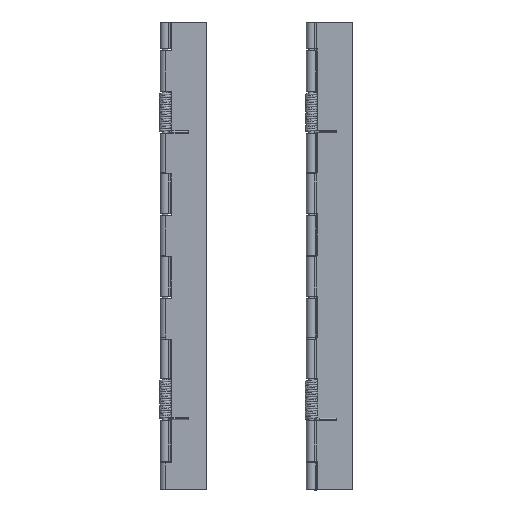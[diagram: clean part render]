
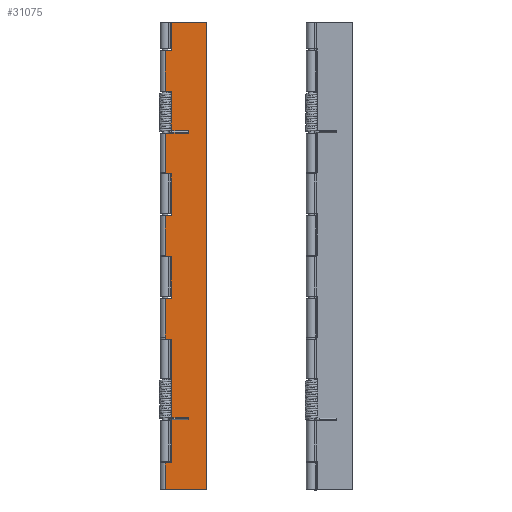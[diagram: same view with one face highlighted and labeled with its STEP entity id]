
A CAD part, top view. The second image highlights one B-rep face of the part: STEP entity #31075.
In plain terms, the highlighted free-form (B-spline) face has degree [1, 1] with [2, 2] control points.
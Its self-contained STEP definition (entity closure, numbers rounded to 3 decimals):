
#29385=CARTESIAN_POINT('',(2.2,52.5,-0.35));
#29386=VERTEX_POINT('',#29385);
#29394=CARTESIAN_POINT('',(2.2,67.3,-0.35));
#29395=VERTEX_POINT('',#29394);
#29396=CARTESIAN_POINT('',(2.2,52.5,-0.35));
#29397=DIRECTION('',(0.0,1.0,0.0));
#29398=VECTOR('',#29397,14.8);
#29399=LINE('',#29396,#29398);
#29400=EDGE_CURVE('',#29386,#29395,#29399,.T.);
#30141=CARTESIAN_POINT('',(2.2,82.5,-0.35));
#30142=VERTEX_POINT('',#30141);
#30150=CARTESIAN_POINT('',(2.2,97.3,-0.35));
#30151=VERTEX_POINT('',#30150);
#30152=CARTESIAN_POINT('',(2.2,82.5,-0.35));
#30153=DIRECTION('',(0.0,1.0,0.0));
#30154=VECTOR('',#30153,14.8);
#30155=LINE('',#30152,#30154);
#30156=EDGE_CURVE('',#30142,#30151,#30155,.T.);
#30267=CARTESIAN_POINT('',(2.2,112.5,-0.35));
#30268=VERTEX_POINT('',#30267);
#30276=CARTESIAN_POINT('',(2.2,127.3,-0.35));
#30277=VERTEX_POINT('',#30276);
#30278=CARTESIAN_POINT('',(2.2,112.5,-0.35));
#30279=DIRECTION('',(0.0,1.0,0.0));
#30280=VECTOR('',#30279,14.8);
#30281=LINE('',#30278,#30280);
#30282=EDGE_CURVE('',#30268,#30277,#30281,.T.);
#30393=CARTESIAN_POINT('',(2.2,-32.3,-0.35));
#30394=VERTEX_POINT('',#30393);
#30402=CARTESIAN_POINT('',(2.2,-22.5,-0.35));
#30403=VERTEX_POINT('',#30402);
#30404=CARTESIAN_POINT('',(2.2,-32.3,-0.35));
#30405=DIRECTION('',(0.0,1.0,0.0));
#30406=VECTOR('',#30405,9.8);
#30407=LINE('',#30404,#30406);
#30408=EDGE_CURVE('',#30394,#30403,#30407,.T.);
#30519=CARTESIAN_POINT('',(2.2,22.5,-0.35));
#30520=VERTEX_POINT('',#30519);
#30528=CARTESIAN_POINT('',(2.2,37.3,-0.35));
#30529=VERTEX_POINT('',#30528);
#30530=CARTESIAN_POINT('',(2.2,22.5,-0.35));
#30531=DIRECTION('',(0.0,1.0,0.0));
#30532=VECTOR('',#30531,14.8);
#30533=LINE('',#30530,#30532);
#30534=EDGE_CURVE('',#30520,#30529,#30533,.T.);
#30551=CARTESIAN_POINT('',(0.0,52.5,-0.35));
#30552=VERTEX_POINT('',#30551);
#30553=CARTESIAN_POINT('',(0.0,52.5,-0.35));
#30554=DIRECTION('',(1.0,0.0,0.0));
#30555=VECTOR('',#30554,2.2);
#30556=LINE('',#30553,#30555);
#30557=EDGE_CURVE('',#30552,#29386,#30556,.T.);
#30605=CARTESIAN_POINT('',(0.,82.5,-0.35));
#30606=VERTEX_POINT('',#30605);
#30607=CARTESIAN_POINT('',(0.,82.5,-0.35));
#30608=DIRECTION('',(1.0,0.0,0.0));
#30609=VECTOR('',#30608,2.2);
#30610=LINE('',#30607,#30609);
#30611=EDGE_CURVE('',#30606,#30142,#30610,.T.);
#30659=CARTESIAN_POINT('',(0.,112.5,-0.35));
#30660=VERTEX_POINT('',#30659);
#30661=CARTESIAN_POINT('',(0.,112.5,-0.35));
#30662=DIRECTION('',(1.0,0.,0.0));
#30663=VECTOR('',#30662,2.2);
#30664=LINE('',#30661,#30663);
#30665=EDGE_CURVE('',#30660,#30268,#30664,.T.);
#30713=CARTESIAN_POINT('',(-12.8,-32.3,-0.35));
#30714=VERTEX_POINT('',#30713);
#30715=CARTESIAN_POINT('',(-12.8,-32.3,-0.35));
#30716=DIRECTION('',(1.0,0.0,0.0));
#30717=VECTOR('',#30716,15.0);
#30718=LINE('',#30715,#30717);
#30719=EDGE_CURVE('',#30714,#30394,#30718,.T.);
#30799=CARTESIAN_POINT('',(0.0,37.3,-0.35));
#30800=VERTEX_POINT('',#30799);
#30801=CARTESIAN_POINT('',(2.2,37.3,-0.35));
#30802=DIRECTION('',(-1.0,0.0,0.0));
#30803=VECTOR('',#30802,2.2);
#30804=LINE('',#30801,#30803);
#30805=EDGE_CURVE('',#30529,#30800,#30804,.T.);
#30972=CARTESIAN_POINT('',(-12.8,137.7,-0.35));
#30973=CARTESIAN_POINT('',(2.2,137.7,-0.35));
#30974=CARTESIAN_POINT('',(-12.8,-32.3,-0.35));
#30975=CARTESIAN_POINT('',(2.2,-32.3,-0.35));
#30976=B_SPLINE_SURFACE_WITH_KNOTS('',1,1,((#30972,#30974),(#30973,#30975)),.UNSPECIFIED.,.F.,.F.,.U.,(2,2),(2,2),(0.0,15.),(0.0,170.),.UNSPECIFIED.);
#30977=ORIENTED_EDGE('',*,*,#29400,.F.);
#30978=ORIENTED_EDGE('',*,*,#30557,.F.);
#30979=CARTESIAN_POINT('',(0.0,37.3,-0.35));
#30980=DIRECTION('',(0.0,1.0,0.0));
#30981=VECTOR('',#30980,15.2);
#30982=LINE('',#30979,#30981);
#30983=EDGE_CURVE('',#30800,#30552,#30982,.T.);
#30984=ORIENTED_EDGE('',*,*,#30983,.F.);
#30985=ORIENTED_EDGE('',*,*,#30805,.F.);
#30986=ORIENTED_EDGE('',*,*,#30534,.F.);
#30987=CARTESIAN_POINT('',(0.0,22.5,-0.35));
#30988=VERTEX_POINT('',#30987);
#30989=CARTESIAN_POINT('',(0.0,22.5,-0.35));
#30990=DIRECTION('',(1.0,0.0,0.0));
#30991=VECTOR('',#30990,2.2);
#30992=LINE('',#30989,#30991);
#30993=EDGE_CURVE('',#30988,#30520,#30992,.T.);
#30994=ORIENTED_EDGE('',*,*,#30993,.F.);
#30995=CARTESIAN_POINT('',(0.0,-22.5,-0.35));
#30996=VERTEX_POINT('',#30995);
#30997=CARTESIAN_POINT('',(0.0,-22.5,-0.35));
#30998=DIRECTION('',(0.0,1.0,0.0));
#30999=VECTOR('',#30998,45.0);
#31000=LINE('',#30997,#30999);
#31001=EDGE_CURVE('',#30996,#30988,#31000,.T.);
#31002=ORIENTED_EDGE('',*,*,#31001,.F.);
#31003=CARTESIAN_POINT('',(2.2,-22.5,-0.35));
#31004=DIRECTION('',(-1.0,0.0,0.0));
#31005=VECTOR('',#31004,2.2);
#31006=LINE('',#31003,#31005);
#31007=EDGE_CURVE('',#30403,#30996,#31006,.T.);
#31008=ORIENTED_EDGE('',*,*,#31007,.F.);
#31009=ORIENTED_EDGE('',*,*,#30408,.F.);
#31010=ORIENTED_EDGE('',*,*,#30719,.F.);
#31011=CARTESIAN_POINT('',(-12.8,137.7,-0.35));
#31012=VERTEX_POINT('',#31011);
#31013=CARTESIAN_POINT('',(-12.8,137.7,-0.35));
#31014=DIRECTION('',(0.0,-1.0,0.0));
#31015=VECTOR('',#31014,170.);
#31016=LINE('',#31013,#31015);
#31017=EDGE_CURVE('',#31012,#30714,#31016,.T.);
#31018=ORIENTED_EDGE('',*,*,#31017,.F.);
#31019=CARTESIAN_POINT('',(0.,137.7,-0.35));
#31020=VERTEX_POINT('',#31019);
#31021=CARTESIAN_POINT('',(0.,137.7,-0.35));
#31022=DIRECTION('',(-1.0,0.0,0.0));
#31023=VECTOR('',#31022,12.8);
#31024=LINE('',#31021,#31023);
#31025=EDGE_CURVE('',#31020,#31012,#31024,.T.);
#31026=ORIENTED_EDGE('',*,*,#31025,.F.);
#31027=CARTESIAN_POINT('',(0.,127.3,-0.35));
#31028=VERTEX_POINT('',#31027);
#31029=CARTESIAN_POINT('',(0.,127.3,-0.35));
#31030=DIRECTION('',(0.0,1.0,0.0));
#31031=VECTOR('',#31030,10.4);
#31032=LINE('',#31029,#31031);
#31033=EDGE_CURVE('',#31028,#31020,#31032,.T.);
#31034=ORIENTED_EDGE('',*,*,#31033,.F.);
#31035=CARTESIAN_POINT('',(2.2,127.3,-0.35));
#31036=DIRECTION('',(-1.0,0.0,0.0));
#31037=VECTOR('',#31036,2.2);
#31038=LINE('',#31035,#31037);
#31039=EDGE_CURVE('',#30277,#31028,#31038,.T.);
#31040=ORIENTED_EDGE('',*,*,#31039,.F.);
#31041=ORIENTED_EDGE('',*,*,#30282,.F.);
#31042=ORIENTED_EDGE('',*,*,#30665,.F.);
#31043=CARTESIAN_POINT('',(0.,97.3,-0.35));
#31044=VERTEX_POINT('',#31043);
#31045=CARTESIAN_POINT('',(0.,97.3,-0.35));
#31046=DIRECTION('',(0.0,1.0,0.0));
#31047=VECTOR('',#31046,15.2);
#31048=LINE('',#31045,#31047);
#31049=EDGE_CURVE('',#31044,#30660,#31048,.T.);
#31050=ORIENTED_EDGE('',*,*,#31049,.F.);
#31051=CARTESIAN_POINT('',(2.2,97.3,-0.35));
#31052=DIRECTION('',(-1.0,0.0,0.0));
#31053=VECTOR('',#31052,2.2);
#31054=LINE('',#31051,#31053);
#31055=EDGE_CURVE('',#30151,#31044,#31054,.T.);
#31056=ORIENTED_EDGE('',*,*,#31055,.F.);
#31057=ORIENTED_EDGE('',*,*,#30156,.F.);
#31058=ORIENTED_EDGE('',*,*,#30611,.F.);
#31059=CARTESIAN_POINT('',(0.,67.3,-0.35));
#31060=VERTEX_POINT('',#31059);
#31061=CARTESIAN_POINT('',(0.,67.3,-0.35));
#31062=DIRECTION('',(0.0,1.0,0.0));
#31063=VECTOR('',#31062,15.2);
#31064=LINE('',#31061,#31063);
#31065=EDGE_CURVE('',#31060,#30606,#31064,.T.);
#31066=ORIENTED_EDGE('',*,*,#31065,.F.);
#31067=CARTESIAN_POINT('',(2.2,67.3,-0.35));
#31068=DIRECTION('',(-1.0,0.0,0.0));
#31069=VECTOR('',#31068,2.2);
#31070=LINE('',#31067,#31069);
#31071=EDGE_CURVE('',#29395,#31060,#31070,.T.);
#31072=ORIENTED_EDGE('',*,*,#31071,.F.);
#31073=EDGE_LOOP('',(#30977,#30978,#30984,#30985,#30986,#30994,#31002,#31008,#31009,#31010,#31018,#31026,#31034,#31040,#31041,#31042,#31050,#31056,#31057,#31058,#31066,#31072));
#31074=FACE_OUTER_BOUND('',#31073,.T.);
#31075=ADVANCED_FACE('',(#31074),#30976,.T.);
